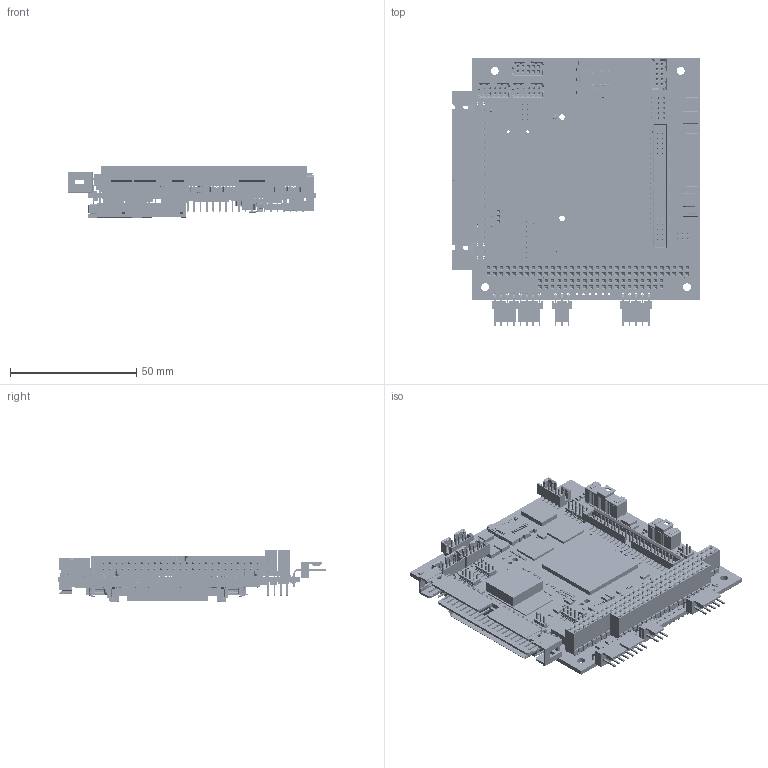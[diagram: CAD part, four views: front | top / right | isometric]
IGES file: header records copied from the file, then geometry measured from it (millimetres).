
Start section: SolidWorks IGES file using analytic representation for surfaces
Global section: file name: C:\Documents and Settings\vincent\My Documents\Drawings Files\VORTEX-DMP\PCM_Vortex86DX_Mechanical.IGS; native system: SolidWorks 2010; preprocessor: SolidWorks 2010; author: vincent; date: 101021.083549; units: inch
Bounding box: 98.14 x 106.14 x 21 mm (x, y, z)
Surface area: 71863.7 mm2 (no closed solid volume)
Topology: 0 solids, 0 shells, 34559 faces, 199321 edges, 199281 vertices
Faces by surface type: bspline 30161, revolution 4398
